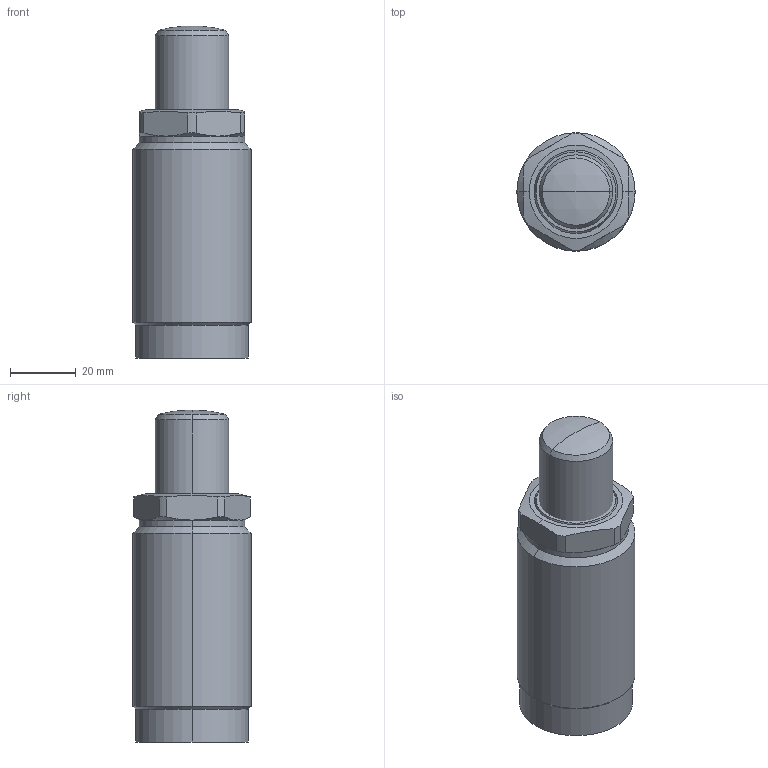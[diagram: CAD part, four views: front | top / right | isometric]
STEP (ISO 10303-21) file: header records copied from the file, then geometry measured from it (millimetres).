
FILE_DESCRIPTION (( 'STEP AP203' ), '1' );
FILE_NAME ('650361-RL.step', '2016-11-02T03:14:28', ( 'wxp' ), ( '' ), 'SwSTEP 2.0', 'SolidWorks 2011', '' );
FILE_SCHEMA (( 'CONFIG_CONTROL_DESIGN' ));
Length unit declared in the file: millimetre
Products named in the file (3): 650361-RL; 葩璃 650361-RL.sldasm-Part-2^650361-RL; 葩璃 650361-RL.sldasm-Part-1^650361-RL
Assembly tree (2 placements, depth 2):
  650361-RL
    葩璃 650361-RL.sldasm-Part-1^650361-RL
    葩璃 650361-RL.sldasm-Part-2^650361-RL
Bounding box: 36 x 36 x 101 mm (x, y, z)
Volume: 84080.6 mm3; surface area: 13640.4 mm2
Topology: 2 solids, 2 shells, 70 faces, 160 edges, 97 vertices
Faces by surface type: cylinder 26, plane 20, cone 16, torus 6, sphere 2
Entity records: 2347 total; most frequent: CARTESIAN_POINT 480, DIRECTION 356, ORIENTED_EDGE 312, AXIS2_PLACEMENT_3D 157, EDGE_CURVE 156, VERTEX_POINT 97, CIRCLE 82, EDGE_LOOP 77
